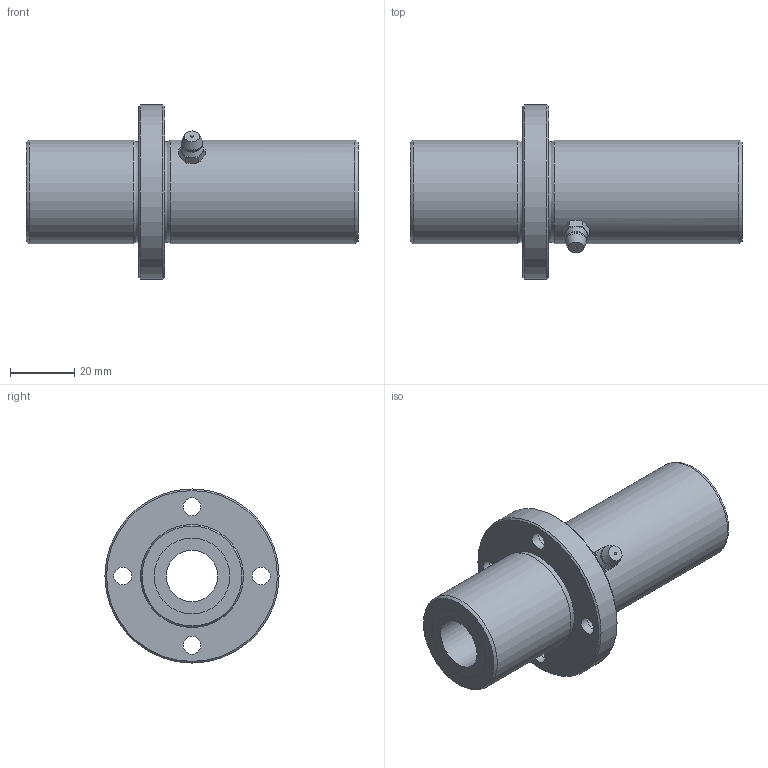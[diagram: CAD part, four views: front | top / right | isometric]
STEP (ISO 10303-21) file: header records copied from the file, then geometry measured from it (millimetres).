
FILE_DESCRIPTION((''),'2;1');
FILE_NAME('D:\製品 (図面)\カタログ用3D\リニアベアリング関連\STEP形式\LFLC\LFLC16.stp','2010-06-04T09:05:57',('Tsuchiya'),(''),'Autodesk Inventor 10','Autodesk Inventor 10','');
FILE_SCHEMA(('AUTOMOTIVE_DESIGN { 1 0 10303 214 1 1 1 1 }'));
Length unit declared in the file: millimetre
Products named in the file (1): LFLC16
Bounding box: 103 x 54 x 54 mm (x, y, z)
Volume: 72452.3 mm3; surface area: 20939.5 mm2
Topology: 1 solids, 1 shells, 59 faces, 117 edges, 70 vertices
Faces by surface type: plane 16, bspline 16, cone 15, cylinder 8, sphere 2, torus 2
Full cylindrical faces by diameter (mm): 16 x1, 23.5 x2, 32 x2, 54 x1
Entity records: 1803 total; most frequent: CARTESIAN_POINT 730, DIRECTION 210, ORIENTED_EDGE 184, EDGE_LOOP 104, AXIS2_PLACEMENT_3D 100, EDGE_CURVE 92, VERTEX_POINT 68, FACE_OUTER_BOUND 59
